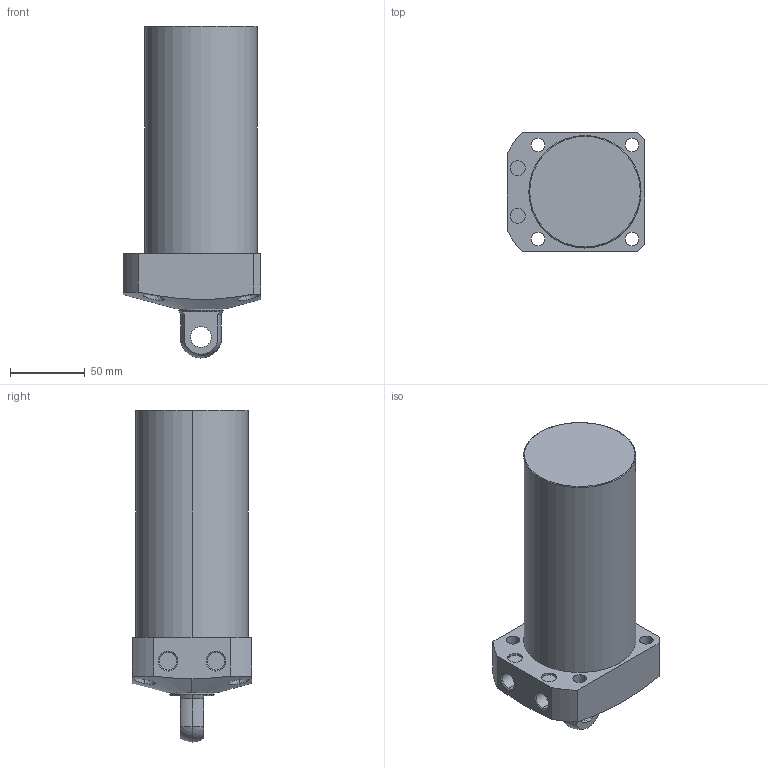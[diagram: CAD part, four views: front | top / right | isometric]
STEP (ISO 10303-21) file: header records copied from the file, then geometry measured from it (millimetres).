
FILE_DESCRIPTION (( 'STEP AP203' ), '1' );
FILE_NAME ('CLL-075CP-115.STEP', '2019-12-25T07:35:40', ( '' ), ( '' ), 'SwSTEP 2.0', 'SolidWorks 2015', '' );
FILE_SCHEMA (( 'CONFIG_CONTROL_DESIGN' ));
Length unit declared in the file: millimetre
Products named in the file (1): CLL-075CP-115
Bounding box: 92 x 80 x 222 mm (x, y, z)
Volume: 898957.3 mm3; surface area: 67717.8 mm2
Topology: 1 solids, 1 shells, 68 faces, 159 edges, 103 vertices
Faces by surface type: cylinder 35, plane 21, cone 8, sphere 2, torus 2
Entity records: 2459 total; most frequent: CARTESIAN_POINT 762, DIRECTION 357, ORIENTED_EDGE 318, EDGE_CURVE 159, AXIS2_PLACEMENT_3D 149, VERTEX_POINT 103, EDGE_LOOP 88, CIRCLE 80
